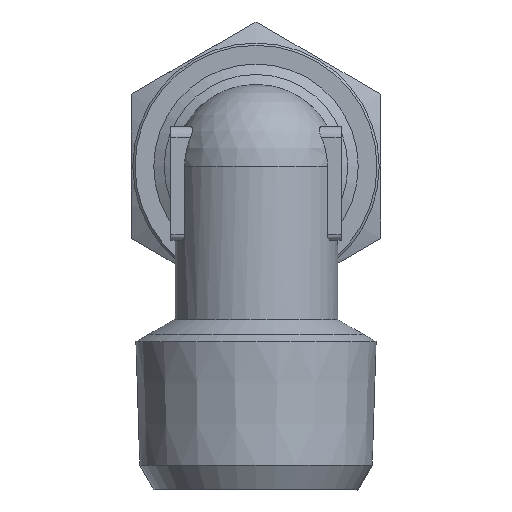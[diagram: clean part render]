
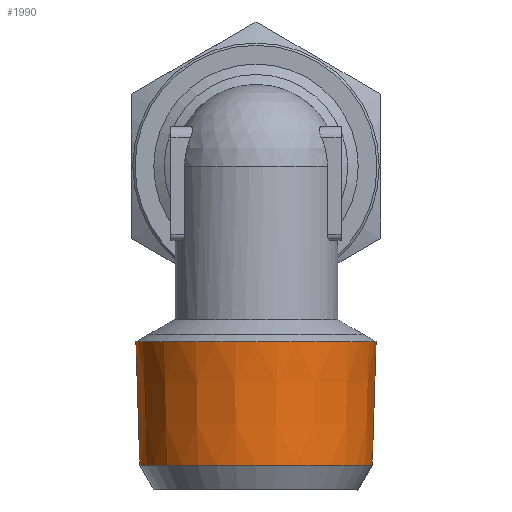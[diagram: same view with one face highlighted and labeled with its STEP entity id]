
A CAD part, left-side view. The second image highlights one B-rep face of the part: STEP entity #1990.
In plain terms, the highlighted conical face has half-angle 1.79 degrees and reference radius 10.573 mm.
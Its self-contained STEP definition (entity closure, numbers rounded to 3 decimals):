
#1990=ADVANCED_FACE('', (#2000,#2010), #2020, .T.);
#7480=AXIS2_PLACEMENT_3D('Ax2Pl3d', #7490, #7500, #7510);
#7600=AXIS2_PLACEMENT_3D('Ax2Pl3d', #7610, #7620, #7630);
#7640=AXIS2_PLACEMENT_3D('Ax2Pl3d', #7650, #7660, #7670);
#7490=CARTESIAN_POINT('HicPkt', (19.664,21.19,
28.17));
#32020=CARTESIAN_POINT('', (19.664,10.617,28.17));
#7610=CARTESIAN_POINT('HicPkt', (19.664,21.19,
17.317));
#32040=CARTESIAN_POINT('', (19.664,10.956,17.317));
#7650=CARTESIAN_POINT('HicPkt', (19.664,21.19,
28.17));
#32860=CIRCLE('Circle', #7480, 10.573);
#32880=CIRCLE('Circle', #7600, 10.234);
#2020=CONICAL_SURFACE('Kegel', #7640, 10.573, 
0.031);
#7500=DIRECTION('Axis', (0.,0.,1.));
#7510=DIRECTION('RefDirection', (1.,0.,-0.));
#7620=DIRECTION('Axis', (0.,0.,-1.));
#7630=DIRECTION('RefDirection', (-1.,-0.,0.));
#7660=DIRECTION('Axis', (0.,0.,1.));
#7670=DIRECTION('RefDirection', (1.,0.,-0.));
#40750=EDGE_CURVE('', #40760, #40760, #32860, .T.);
#40790=EDGE_CURVE('', #40800, #40800, #32880, .T.);
#44680=EDGE_LOOP('Edge_loop', (#44690));
#44700=EDGE_LOOP('Edge_loop', (#44710));
#2010=FACE_BOUND('', #44700, .T.);
#2000=FACE_OUTER_BOUND('Face_outer_bound', #44680, .T.);
#44690=ORIENTED_EDGE('', *, *, #40750, .F.);
#44710=ORIENTED_EDGE('', *, *, #40790, .F.);
#40760=VERTEX_POINT('', #32020);
#40800=VERTEX_POINT('', #32040);
